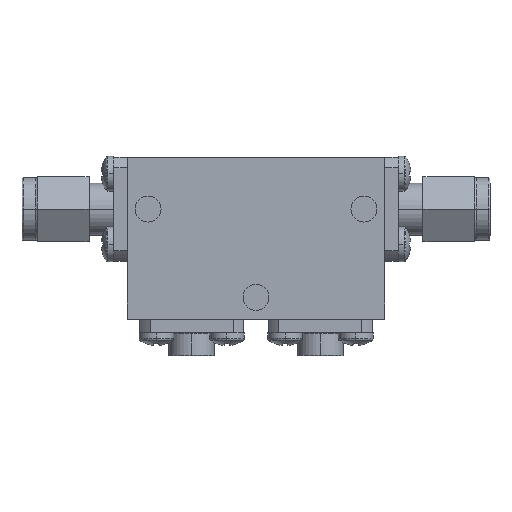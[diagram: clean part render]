
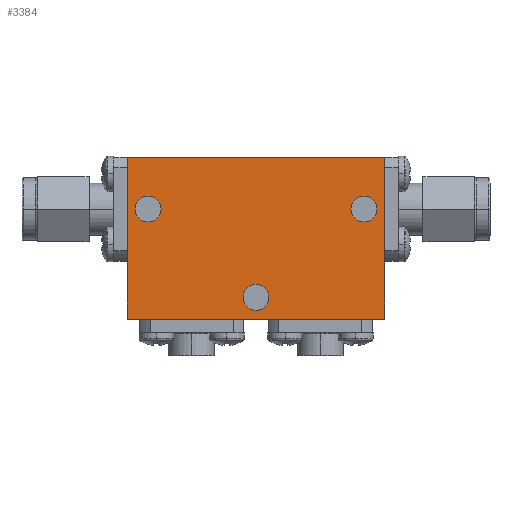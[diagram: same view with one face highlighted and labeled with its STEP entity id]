
A CAD part, top view. The second image highlights one B-rep face of the part: STEP entity #3384.
In plain terms, the highlighted planar face has unit normal (0, 0, 1).
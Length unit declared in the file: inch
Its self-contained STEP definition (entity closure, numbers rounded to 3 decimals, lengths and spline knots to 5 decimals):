
#14 = DIRECTION ( 'NONE',  ( 1., 0., 0. ) ) ;
#46 = VERTEX_POINT ( 'NONE', #3806 ) ;
#100 = CARTESIAN_POINT ( 'NONE',  ( 0.62, -0.39, 0.25 ) ) ;
#132 = CARTESIAN_POINT ( 'NONE',  ( 0.52, 0.14, 0.25 ) ) ;
#133 = CARTESIAN_POINT ( 'NONE',  ( 0., -0.285, 0.25 ) ) ;
#146 = DIRECTION ( 'NONE',  ( 0., 0., 1. ) ) ;
#175 = EDGE_CURVE ( 'NONE', #1385, #851, #4047, .T. ) ;
#191 = CARTESIAN_POINT ( 'NONE',  ( -0.52, 0.14, 0.25 ) ) ;
#216 = ORIENTED_EDGE ( 'NONE', *, *, #2782, .T. ) ;
#247 = CARTESIAN_POINT ( 'NONE',  ( -0.4575, 0.14, 0.25 ) ) ;
#271 = VERTEX_POINT ( 'NONE', #4305 ) ;
#296 = VERTEX_POINT ( 'NONE', #247 ) ;
#346 = DIRECTION ( 'NONE',  ( -1., 0., 0. ) ) ;
#370 = CARTESIAN_POINT ( 'NONE',  ( -0.62, 0.39, 0.25 ) ) ;
#392 = EDGE_CURVE ( 'NONE', #851, #1385, #3932, .T. ) ;
#442 = ORIENTED_EDGE ( 'NONE', *, *, #1614, .F. ) ;
#522 = DIRECTION ( 'NONE',  ( 0., -1., 0. ) ) ;
#562 = EDGE_LOOP ( 'NONE', ( #2177, #3431 ) ) ;
#569 = DIRECTION ( 'NONE',  ( 0., 1., 0. ) ) ;
#587 = EDGE_LOOP ( 'NONE', ( #1806, #4310 ) ) ;
#597 = AXIS2_PLACEMENT_3D ( 'NONE', #3843, #1174, #3162 ) ;
#599 = VERTEX_POINT ( 'NONE', #370 ) ;
#639 = VERTEX_POINT ( 'NONE', #2704 ) ;
#640 = DIRECTION ( 'NONE',  ( 1., 0., 0. ) ) ;
#737 = VECTOR ( 'NONE', #522, 39.37008 ) ;
#847 = DIRECTION ( 'NONE',  ( 1., 0., 0. ) ) ;
#851 = VERTEX_POINT ( 'NONE', #2477 ) ;
#970 = CARTESIAN_POINT ( 'NONE',  ( -0.52, 0.14, 0.25 ) ) ;
#1003 = DIRECTION ( 'NONE',  ( 0., 0., 1. ) ) ;
#1100 = FACE_BOUND ( 'NONE', #562, .T. ) ;
#1163 = DIRECTION ( 'NONE',  ( 1., 0., 0. ) ) ;
#1171 = ORIENTED_EDGE ( 'NONE', *, *, #1852, .T. ) ;
#1174 = DIRECTION ( 'NONE',  ( 0., 0., 1. ) ) ;
#1235 = VECTOR ( 'NONE', #14, 39.37008 ) ;
#1260 = CIRCLE ( 'NONE', #597, 0.0625 ) ;
#1279 = CARTESIAN_POINT ( 'NONE',  ( 0.62, 0.39, 0.25 ) ) ;
#1385 = VERTEX_POINT ( 'NONE', #3846 ) ;
#1404 = FACE_OUTER_BOUND ( 'NONE', #2503, .T. ) ;
#1493 = DIRECTION ( 'NONE',  ( 0., 0., 1. ) ) ;
#1565 = EDGE_CURVE ( 'NONE', #46, #1938, #3974, .T. ) ;
#1580 = VECTOR ( 'NONE', #569, 39.37008 ) ;
#1614 = EDGE_CURVE ( 'NONE', #639, #296, #1999, .T. ) ;
#1635 = LINE ( 'NONE', #2891, #737 ) ;
#1640 = AXIS2_PLACEMENT_3D ( 'NONE', #191, #1838, #1163 ) ;
#1685 = CARTESIAN_POINT ( 'NONE',  ( -0.62, -0.39, 0.25 ) ) ;
#1803 = ORIENTED_EDGE ( 'NONE', *, *, #2242, .T. ) ;
#1806 = ORIENTED_EDGE ( 'NONE', *, *, #175, .F. ) ;
#1838 = DIRECTION ( 'NONE',  ( 0., 0., 1. ) ) ;
#1852 = EDGE_CURVE ( 'NONE', #2988, #599, #2435, .T. ) ;
#1894 = VECTOR ( 'NONE', #346, 39.37008 ) ;
#1928 = AXIS2_PLACEMENT_3D ( 'NONE', #133, #1493, #847 ) ;
#1938 = VERTEX_POINT ( 'NONE', #3169 ) ;
#1943 = ORIENTED_EDGE ( 'NONE', *, *, #2087, .F. ) ;
#1999 = CIRCLE ( 'NONE', #4393, 0.0625 ) ;
#2087 = EDGE_CURVE ( 'NONE', #296, #639, #3469, .T. ) ;
#2170 = FACE_BOUND ( 'NONE', #587, .T. ) ;
#2177 = ORIENTED_EDGE ( 'NONE', *, *, #3217, .F. ) ;
#2195 = LINE ( 'NONE', #1685, #1235 ) ;
#2242 = EDGE_CURVE ( 'NONE', #2738, #2988, #3355, .T. ) ;
#2328 = PLANE ( 'NONE',  #2358 ) ;
#2338 = DIRECTION ( 'NONE',  ( 1., 0., 0. ) ) ;
#2358 = AXIS2_PLACEMENT_3D ( 'NONE', #4013, #3661, #640 ) ;
#2435 = LINE ( 'NONE', #2718, #1894 ) ;
#2449 = DIRECTION ( 'NONE',  ( 1., 0., 0. ) ) ;
#2477 = CARTESIAN_POINT ( 'NONE',  ( -0.0625, -0.285, 0.25 ) ) ;
#2503 = EDGE_LOOP ( 'NONE', ( #1803, #1171, #216, #3073 ) ) ;
#2610 = CARTESIAN_POINT ( 'NONE',  ( 0.62, 0.39, 0.25 ) ) ;
#2662 = EDGE_LOOP ( 'NONE', ( #1943, #442 ) ) ;
#2666 = AXIS2_PLACEMENT_3D ( 'NONE', #132, #146, #2449 ) ;
#2704 = CARTESIAN_POINT ( 'NONE',  ( -0.5825, 0.14, 0.25 ) ) ;
#2718 = CARTESIAN_POINT ( 'NONE',  ( -0.62, 0.39, 0.25 ) ) ;
#2738 = VERTEX_POINT ( 'NONE', #100 ) ;
#2782 = EDGE_CURVE ( 'NONE', #599, #271, #1635, .T. ) ;
#2891 = CARTESIAN_POINT ( 'NONE',  ( -0.62, 0.39, 0.25 ) ) ;
#2988 = VERTEX_POINT ( 'NONE', #2610 ) ;
#3036 = DIRECTION ( 'NONE',  ( 0., 0., 1. ) ) ;
#3073 = ORIENTED_EDGE ( 'NONE', *, *, #4229, .T. ) ;
#3162 = DIRECTION ( 'NONE',  ( 1., 0., 0. ) ) ;
#3169 = CARTESIAN_POINT ( 'NONE',  ( 0.5825, 0.14, 0.25 ) ) ;
#3217 = EDGE_CURVE ( 'NONE', #1938, #46, #1260, .T. ) ;
#3351 = CARTESIAN_POINT ( 'NONE',  ( 0., -0.285, 0.25 ) ) ;
#3355 = LINE ( 'NONE', #1279, #1580 ) ;
#3382 = DIRECTION ( 'NONE',  ( 1., 0., 0. ) ) ;
#3384 = ADVANCED_FACE ( 'NONE', ( #1100, #2170, #4252, #1404 ), #2328, .T. ) ;
#3431 = ORIENTED_EDGE ( 'NONE', *, *, #1565, .F. ) ;
#3437 = AXIS2_PLACEMENT_3D ( 'NONE', #3351, #3036, #3382 ) ;
#3469 = CIRCLE ( 'NONE', #1640, 0.0625 ) ;
#3661 = DIRECTION ( 'NONE',  ( 0., 0., 1. ) ) ;
#3806 = CARTESIAN_POINT ( 'NONE',  ( 0.4575, 0.14, 0.25 ) ) ;
#3843 = CARTESIAN_POINT ( 'NONE',  ( 0.52, 0.14, 0.25 ) ) ;
#3846 = CARTESIAN_POINT ( 'NONE',  ( 0.0625, -0.285, 0.25 ) ) ;
#3932 = CIRCLE ( 'NONE', #3437, 0.0625 ) ;
#3974 = CIRCLE ( 'NONE', #2666, 0.0625 ) ;
#4013 = CARTESIAN_POINT ( 'NONE',  ( 0., 0., 0.25 ) ) ;
#4047 = CIRCLE ( 'NONE', #1928, 0.0625 ) ;
#4229 = EDGE_CURVE ( 'NONE', #271, #2738, #2195, .T. ) ;
#4252 = FACE_BOUND ( 'NONE', #2662, .T. ) ;
#4305 = CARTESIAN_POINT ( 'NONE',  ( -0.62, -0.39, 0.25 ) ) ;
#4310 = ORIENTED_EDGE ( 'NONE', *, *, #392, .F. ) ;
#4393 = AXIS2_PLACEMENT_3D ( 'NONE', #970, #1003, #2338 ) ;
